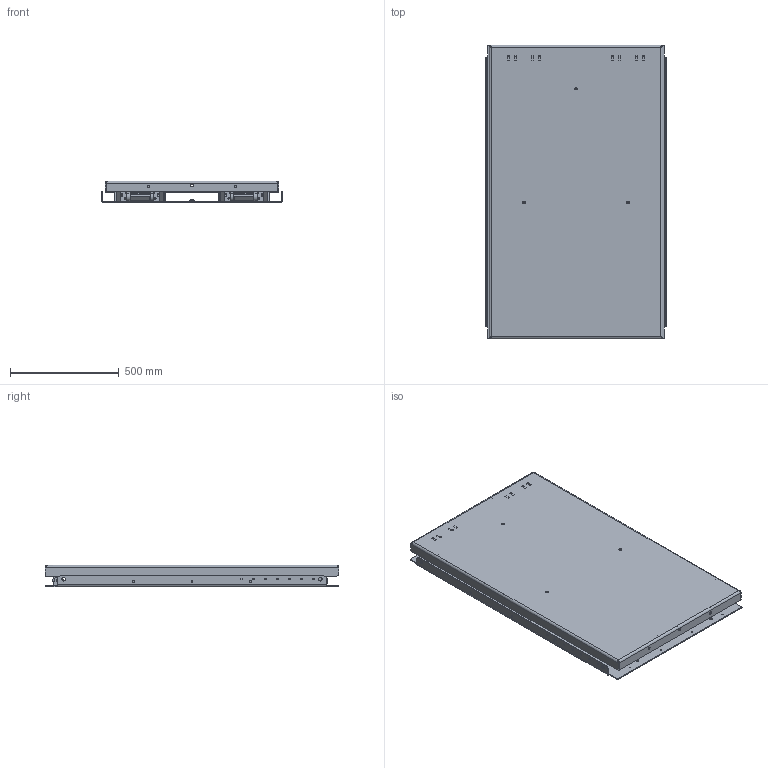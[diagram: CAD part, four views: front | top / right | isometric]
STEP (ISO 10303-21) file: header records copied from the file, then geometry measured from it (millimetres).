
FILE_DESCRIPTION(/* description */ ('TCL 2000 1350x800'),/* implementation_level */ '2;1');
FILE_NAME(/* name */ 'C:\Autodesk_VaultWork\Ritningar\tmp\601377_Collapsed.stp',/* time_stamp */ '2018-03-01T08:20:37+01:00',/* author */ ('johso'),/* organization */ (''),/* preprocessor_version */ 'ST-DEVELOPER v16.5',/* originating_system */ 'Autodesk Inventor 2017',/* authorisation */ '');
FILE_SCHEMA (('AUTOMOTIVE_DESIGN { 1 0 10303 214 3 1 1 }'));
Length unit declared in the file: millimetre
Products named in the file (19): 601377.tmp; 601295; 601294; 80476; 601292; 602256; 601260; 36532; 601263; 601264; 36533; 36534; 36538-2; 601298; 602124; 45411; ISO 4014 - M6 x 35; 44572; 45087
Assembly tree (48 placements, depth 5):
  601377.tmp
    601295
      601294
      45411  x8
      80476  x3
    601292
      602256
        601260  x2
          36532
          601263
          601264
      36533  x2
        36534
        36538-2
    601298
      602124
      45411  x8
      ISO 4014 - M6 x 35  x6
      44572  x2
      45087  x4
Bounding box: 830 x 1350.08 x 100 mm (x, y, z)
Volume: 24725132 mm3; surface area: 7192589.2 mm2
Topology: 47 solids, 47 shells, 2289 faces, 6421 edges, 4254 vertices
Faces by surface type: cylinder 1303, plane 896, cone 54, bspline 36
Full cylindrical faces by diameter (mm): 5 x8, 5.5 x9, 6 x6, 7 x4, 7.4 x12, 8.376 x3, 8.5 x4, 8.88 x6, 9 x6, 12 x3, 12.5 x6, 13 x8, 15 x16, 16 x4, 26.2 x8
Entity records: 34399 total; most frequent: CARTESIAN_POINT 6605, DIRECTION 5886, ORIENTED_EDGE 5594, EDGE_CURVE 2797, AXIS2_PLACEMENT_3D 2138, VERTEX_POINT 1889, LINE 1610, VECTOR 1610
